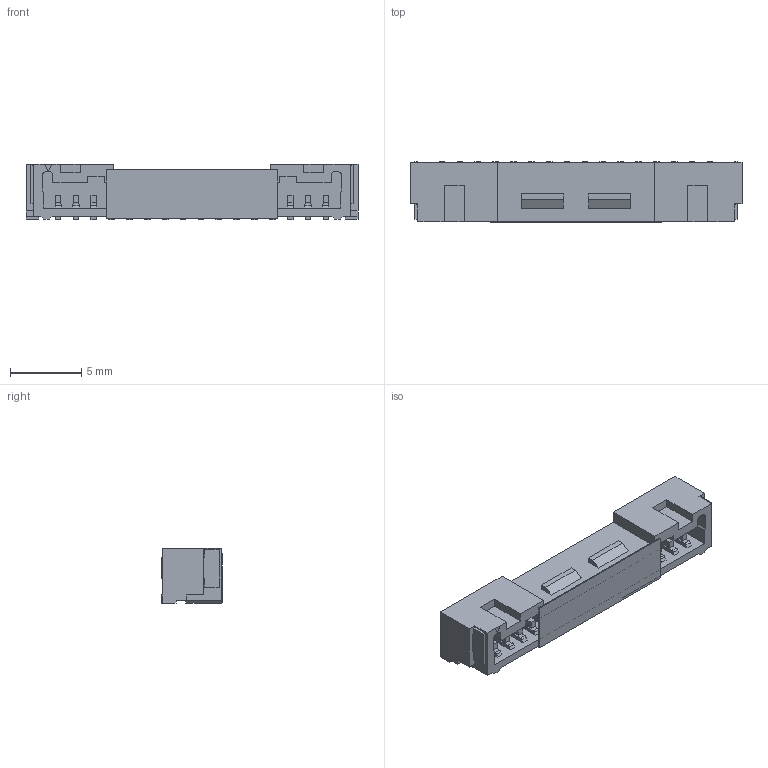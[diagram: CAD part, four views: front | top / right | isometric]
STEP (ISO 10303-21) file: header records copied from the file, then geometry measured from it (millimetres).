
FILE_DESCRIPTION(/* description */ (''),/* implementation_level */ '2;1');
FILE_NAME(/* name */ '5055681671wbm000_02_214.stp',/* time_stamp */ '2026-02-10T19:34:53+05:30',/* author */ (''),/* organization */ (''),/* preprocessor_version */ 'ST-DEVELOPER v19.4',/* originating_system */ 'SIEMENS PLM Software NX2212.9160',/* authorisation */ '');
FILE_SCHEMA (('AUTOMOTIVE_DESIGN { 1 0 10303 214 3 1 1 1 }'));
Length unit declared in the file: millimetre
Products named in the file (1): 5055681671wbm000_02
Bounding box: 23.25 x 4.24 x 3.9 mm (x, y, z)
Volume: 207.6 mm3; surface area: 695.6 mm2
Topology: 2 solids, 2 shells, 398 faces, 1191 edges, 890 vertices
Faces by surface type: plane 378, cylinder 20
Entity records: 13285 total; most frequent: CARTESIAN_POINT 2336, ORIENTED_EDGE 2238, DIRECTION 2029, LINE 1151, VECTOR 1151, EDGE_CURVE 1119, VERTEX_POINT 746, AXIS2_PLACEMENT_3D 439
